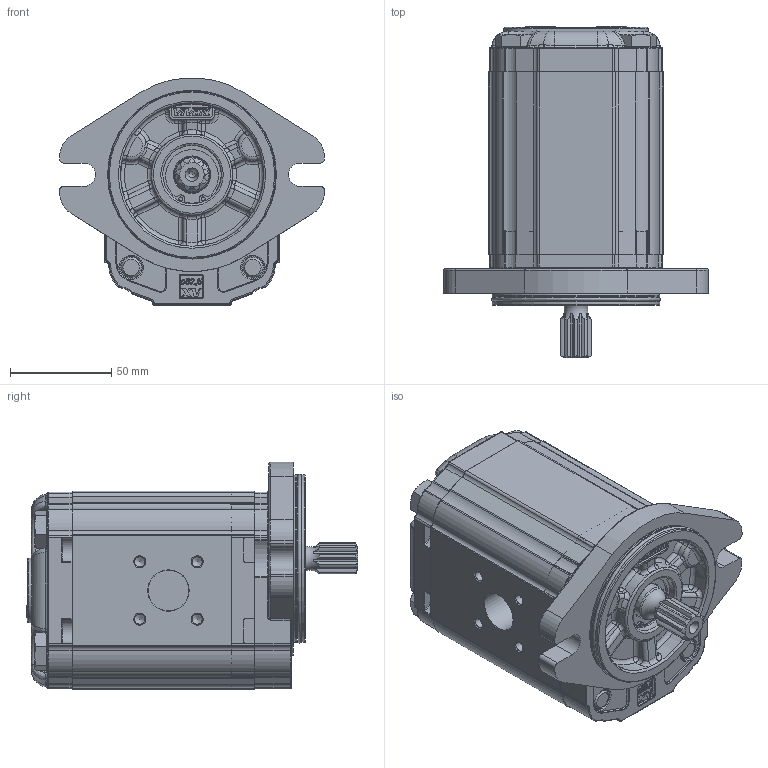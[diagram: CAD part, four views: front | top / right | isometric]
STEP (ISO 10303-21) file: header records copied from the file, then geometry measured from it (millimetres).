
FILE_DESCRIPTION( ( 'Unknown' ), '1' );
FILE_NAME( 'P:/montaggio_easy/output/STP/X2M5931ISSF.stp', 'Unknown', ( 'Unknown' ), ( 'Unknown' ), 'PSStep 14.0', 'Unknown', ' ' );
FILE_SCHEMA( ( 'AUTOMOTIVE_DESIGN { 1 0 10303 214 1 1 1 1 }' ) );
Length unit declared in the file: millimetre
Products named in the file (5): Assem1; X2M31; 2I; X2SSH90; XM219-F
Bounding box: 130.38 x 163.2 x 112.3 mm (x, y, z)
Volume: 1932096.4 mm3; surface area: 252790.6 mm2
Topology: 8 solids, 10 shells, 3972 faces, 10234 edges, 6518 vertices
Faces by surface type: plane 1830, cylinder 1036, extrusion 420, torus 332, bspline 188, cone 114, sphere 52
Full cylindrical faces by diameter (mm): 2 x4, 5 x16, 10.5 x8, 11 x4, 16 x8, 17.42 x2, 18 x2, 20 x4, 20.595 x2, 23.332 x2, 25.834 x2, 28.5 x2, 28.56 x2, 28.57 x2, 28.8 x2, 30.4 x2, 79.6 x4, 82.5 x4
Entity records: 85253 total; most frequent: CARTESIAN_POINT 22154, ORIENTED_EDGE 9900, DIRECTION 9362, EDGE_CURVE 4950, VERTEX_POINT 3204, AXIS2_PLACEMENT_3D 3137, VECTOR 3088, LINE 2878
